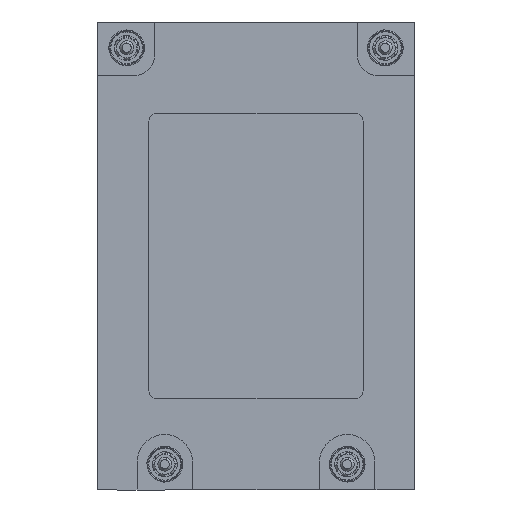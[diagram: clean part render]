
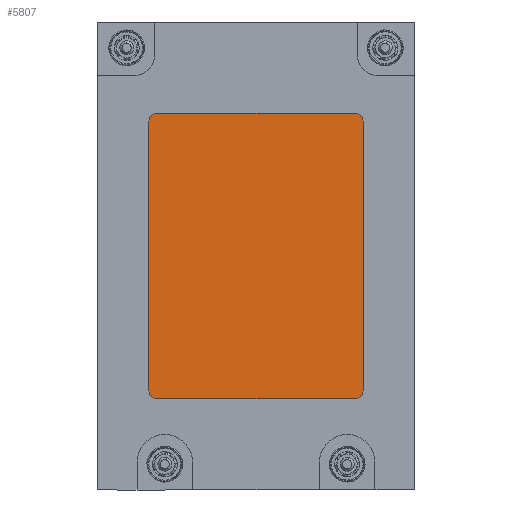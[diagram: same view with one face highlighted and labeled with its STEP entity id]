
A CAD part, front view. The second image highlights one B-rep face of the part: STEP entity #5807.
In plain terms, the highlighted planar face has unit normal (0, -1, 0) as drawn and (0, 1, 0) by its records, which use the part's own axes.
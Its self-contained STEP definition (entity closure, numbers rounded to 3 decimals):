
#345 = ORIENTED_EDGE ( 'NONE', *, *, #2235, .T. ) ;
#433 = VERTEX_POINT ( 'NONE', #5213 ) ;
#508 = CARTESIAN_POINT ( 'NONE',  ( 25., 1., 36. ) ) ;
#653 = CARTESIAN_POINT ( 'NONE',  ( 27., 1., -34. ) ) ;
#1051 = DIRECTION ( 'NONE',  ( 0., 0., 1. ) ) ;
#1073 = AXIS2_PLACEMENT_3D ( 'NONE', #1130, #2574, #5236 ) ;
#1094 = EDGE_CURVE ( 'NONE', #8377, #6962, #8806, .T. ) ;
#1104 = CARTESIAN_POINT ( 'NONE',  ( 25., 1., -36. ) ) ;
#1130 = CARTESIAN_POINT ( 'NONE',  ( -25., 1., -34. ) ) ;
#1134 = EDGE_CURVE ( 'NONE', #2320, #4039, #6020, .T. ) ;
#1280 = DIRECTION ( 'NONE',  ( 0., 0., -1. ) ) ;
#1506 = DIRECTION ( 'NONE',  ( 0., -1., 0. ) ) ;
#1675 = EDGE_CURVE ( 'NONE', #2932, #8377, #6930, .T. ) ;
#1832 = CIRCLE ( 'NONE', #3121, 2. ) ;
#1926 = CARTESIAN_POINT ( 'NONE',  ( 27., 1., 34. ) ) ;
#1951 = DIRECTION ( 'NONE',  ( 1., 0., 0. ) ) ;
#2195 = CARTESIAN_POINT ( 'NONE',  ( 25., 1., -34. ) ) ;
#2235 = EDGE_CURVE ( 'NONE', #6962, #2320, #2314, .T. ) ;
#2238 = AXIS2_PLACEMENT_3D ( 'NONE', #3579, #1506, #3621 ) ;
#2314 = CIRCLE ( 'NONE', #3339, 2. ) ;
#2320 = VERTEX_POINT ( 'NONE', #1104 ) ;
#2506 = ORIENTED_EDGE ( 'NONE', *, *, #1675, .T. ) ;
#2574 = DIRECTION ( 'NONE',  ( 0., 1., 0. ) ) ;
#2595 = CARTESIAN_POINT ( 'NONE',  ( -25., 1., 36. ) ) ;
#2932 = VERTEX_POINT ( 'NONE', #508 ) ;
#3070 = ORIENTED_EDGE ( 'NONE', *, *, #1134, .T. ) ;
#3105 = CARTESIAN_POINT ( 'NONE',  ( -27., 1., -34. ) ) ;
#3121 = AXIS2_PLACEMENT_3D ( 'NONE', #7350, #7260, #3967 ) ;
#3331 = AXIS2_PLACEMENT_3D ( 'NONE', #8586, #5163, #1051 ) ;
#3339 = AXIS2_PLACEMENT_3D ( 'NONE', #2195, #4989, #6436 ) ;
#3479 = VERTEX_POINT ( 'NONE', #3105 ) ;
#3579 = CARTESIAN_POINT ( 'NONE',  ( -25., 1., 34. ) ) ;
#3588 = ORIENTED_EDGE ( 'NONE', *, *, #7084, .T. ) ;
#3621 = DIRECTION ( 'NONE',  ( 0., 0., -1. ) ) ;
#3967 = DIRECTION ( 'NONE',  ( 0., 0., -1. ) ) ;
#4039 = VERTEX_POINT ( 'NONE', #7662 ) ;
#4325 = DIRECTION ( 'NONE',  ( 0., 0., 1. ) ) ;
#4387 = PLANE ( 'NONE',  #2238 ) ;
#4516 = CARTESIAN_POINT ( 'NONE',  ( -25., 1., 36. ) ) ;
#4654 = LINE ( 'NONE', #4516, #6413 ) ;
#4751 = DIRECTION ( 'NONE',  ( -1., 0., 0. ) ) ;
#4989 = DIRECTION ( 'NONE',  ( 0., 1., 0. ) ) ;
#5037 = CARTESIAN_POINT ( 'NONE',  ( -27., 1., -34. ) ) ;
#5042 = EDGE_CURVE ( 'NONE', #4039, #3479, #7716, .T. ) ;
#5092 = EDGE_CURVE ( 'NONE', #6370, #2932, #4654, .T. ) ;
#5163 = DIRECTION ( 'NONE',  ( 0., 1., 0. ) ) ;
#5213 = CARTESIAN_POINT ( 'NONE',  ( -27., 1., 34. ) ) ;
#5236 = DIRECTION ( 'NONE',  ( 0., 0., -1. ) ) ;
#5795 = ORIENTED_EDGE ( 'NONE', *, *, #1094, .T. ) ;
#5807 = ADVANCED_FACE ( 'NONE', ( #7053 ), #4387, .F. ) ;
#5931 = VECTOR ( 'NONE', #4751, 1000. ) ;
#5942 = ORIENTED_EDGE ( 'NONE', *, *, #5042, .T. ) ;
#6020 = LINE ( 'NONE', #8185, #5931 ) ;
#6278 = LINE ( 'NONE', #5037, #8447 ) ;
#6370 = VERTEX_POINT ( 'NONE', #2595 ) ;
#6413 = VECTOR ( 'NONE', #1951, 1000. ) ;
#6436 = DIRECTION ( 'NONE',  ( 0., 0., 1. ) ) ;
#6930 = CIRCLE ( 'NONE', #3331, 2. ) ;
#6962 = VERTEX_POINT ( 'NONE', #7130 ) ;
#7053 = FACE_OUTER_BOUND ( 'NONE', #8134, .T. ) ;
#7084 = EDGE_CURVE ( 'NONE', #433, #6370, #1832, .T. ) ;
#7130 = CARTESIAN_POINT ( 'NONE',  ( 27., 1., -34. ) ) ;
#7180 = ORIENTED_EDGE ( 'NONE', *, *, #7694, .T. ) ;
#7260 = DIRECTION ( 'NONE',  ( 0., 1., 0. ) ) ;
#7350 = CARTESIAN_POINT ( 'NONE',  ( -25., 1., 34. ) ) ;
#7662 = CARTESIAN_POINT ( 'NONE',  ( -25., 1., -36. ) ) ;
#7694 = EDGE_CURVE ( 'NONE', #3479, #433, #6278, .T. ) ;
#7716 = CIRCLE ( 'NONE', #1073, 2. ) ;
#7923 = VECTOR ( 'NONE', #1280, 1000. ) ;
#8134 = EDGE_LOOP ( 'NONE', ( #3588, #8578, #2506, #5795, #345, #3070, #5942, #7180 ) ) ;
#8185 = CARTESIAN_POINT ( 'NONE',  ( -25., 1., -36. ) ) ;
#8377 = VERTEX_POINT ( 'NONE', #1926 ) ;
#8447 = VECTOR ( 'NONE', #4325, 1000. ) ;
#8578 = ORIENTED_EDGE ( 'NONE', *, *, #5092, .T. ) ;
#8586 = CARTESIAN_POINT ( 'NONE',  ( 25., 1., 34. ) ) ;
#8806 = LINE ( 'NONE', #653, #7923 ) ;
